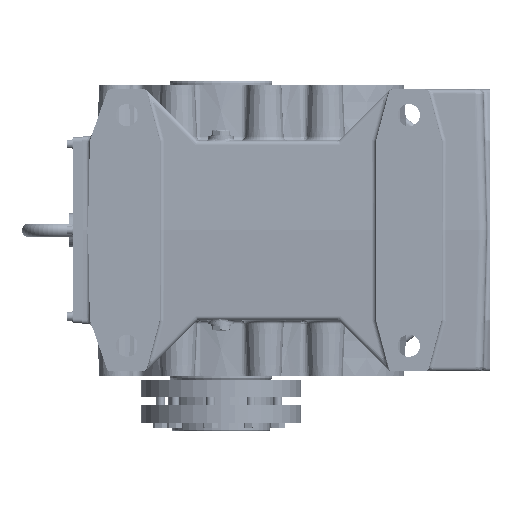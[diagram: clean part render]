
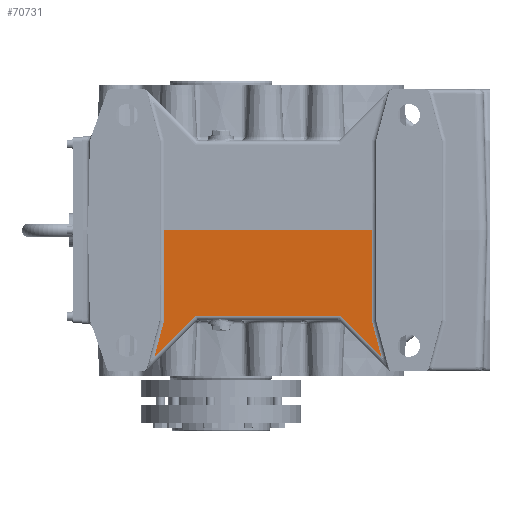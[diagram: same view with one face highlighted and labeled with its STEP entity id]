
A CAD part, left-side view. The second image highlights one B-rep face of the part: STEP entity #70731.
In plain terms, the highlighted planar face has unit normal (-1, 0, -0.026).
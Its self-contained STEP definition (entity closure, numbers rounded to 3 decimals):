
#46340=CARTESIAN_POINT('',(-192.128,-139.571,-100.131));
#46341=VERTEX_POINT('',#46340);
#46349=CARTESIAN_POINT('',(-192.128,29.571,-100.131));
#46350=VERTEX_POINT('',#46349);
#46351=CARTESIAN_POINT('',(-192.128,-139.571,-100.131));
#46352=DIRECTION('',(0.0,1.0,0.0));
#46353=VECTOR('',#46352,169.142);
#46354=LINE('',#46351,#46353);
#46355=EDGE_CURVE('',#46341,#46350,#46354,.T.);
#52735=CARTESIAN_POINT('',(-191.986,66.5,-105.524));
#52736=VERTEX_POINT('',#52735);
#52761=CARTESIAN_POINT('',(-194.75,66.5,0.0));
#52762=VERTEX_POINT('',#52761);
#52763=CARTESIAN_POINT('',(-191.986,66.5,-105.524));
#52764=DIRECTION('',(-0.026,0.0,1.));
#52765=VECTOR('',#52764,105.561);
#52766=LINE('',#52763,#52765);
#52767=EDGE_CURVE('',#52736,#52762,#52766,.T.);
#52794=CARTESIAN_POINT('',(-190.86,77.967,-148.527));
#52795=VERTEX_POINT('',#52794);
#52803=CARTESIAN_POINT('',(-190.86,77.967,-148.527));
#52804=DIRECTION('',(-0.025,-0.258,0.966));
#52805=VECTOR('',#52804,44.52);
#52806=LINE('',#52803,#52805);
#52807=EDGE_CURVE('',#52795,#52736,#52806,.T.);
#53261=CARTESIAN_POINT('',(-191.986,-176.5,-105.524));
#53262=VERTEX_POINT('',#53261);
#53356=CARTESIAN_POINT('',(-190.86,-187.967,-148.527));
#53357=VERTEX_POINT('',#53356);
#53358=CARTESIAN_POINT('',(-191.986,-176.5,-105.524));
#53359=DIRECTION('',(0.025,-0.258,-0.966));
#53360=VECTOR('',#53359,44.52);
#53361=LINE('',#53358,#53360);
#53362=EDGE_CURVE('',#53262,#53357,#53361,.T.);
#54804=CARTESIAN_POINT('',(-194.75,-176.5,0.0));
#54805=VERTEX_POINT('',#54804);
#54813=CARTESIAN_POINT('',(-194.75,-176.5,0.));
#54814=DIRECTION('',(0.026,0.0,-1.));
#54815=VECTOR('',#54814,105.561);
#54816=LINE('',#54813,#54815);
#54817=EDGE_CURVE('',#54805,#53262,#54816,.T.);
#56774=CARTESIAN_POINT('',(-190.86,-187.967,-148.527));
#56775=DIRECTION('',(-0.019,0.707,0.707));
#56776=VECTOR('',#56775,68.455);
#56777=LINE('',#56774,#56776);
#56778=EDGE_CURVE('',#53357,#46341,#56777,.T.);
#56951=CARTESIAN_POINT('',(-192.128,29.571,-100.131));
#56952=DIRECTION('',(0.019,0.707,-0.707));
#56953=VECTOR('',#56952,68.455);
#56954=LINE('',#56951,#56953);
#56955=EDGE_CURVE('',#46350,#52795,#56954,.T.);
#70685=CARTESIAN_POINT('',(-194.75,66.5,0.0));
#70686=DIRECTION('',(0.0,-1.0,0.0));
#70687=VECTOR('',#70686,243.0);
#70688=LINE('',#70685,#70687);
#70689=EDGE_CURVE('',#52762,#54805,#70688,.T.);
#70716=CARTESIAN_POINT('',(-194.749,-307.0,-0.036));
#70717=DIRECTION('',(1.,0.,0.026));
#70718=DIRECTION('',(0.026,0.,-1.));
#70719=AXIS2_PLACEMENT_3D('',#70716,#70717,#70718);
#70720=PLANE('',#70719);
#70721=ORIENTED_EDGE('',*,*,#52807,.F.);
#70722=ORIENTED_EDGE('',*,*,#56955,.F.);
#70723=ORIENTED_EDGE('',*,*,#46355,.F.);
#70724=ORIENTED_EDGE('',*,*,#56778,.F.);
#70725=ORIENTED_EDGE('',*,*,#53362,.F.);
#70726=ORIENTED_EDGE('',*,*,#54817,.F.);
#70727=ORIENTED_EDGE('',*,*,#70689,.F.);
#70728=ORIENTED_EDGE('',*,*,#52767,.F.);
#70729=EDGE_LOOP('',(#70721,#70722,#70723,#70724,#70725,#70726,#70727,#70728));
#70730=FACE_OUTER_BOUND('',#70729,.T.);
#70731=ADVANCED_FACE('',(#70730),#70720,.F.);
